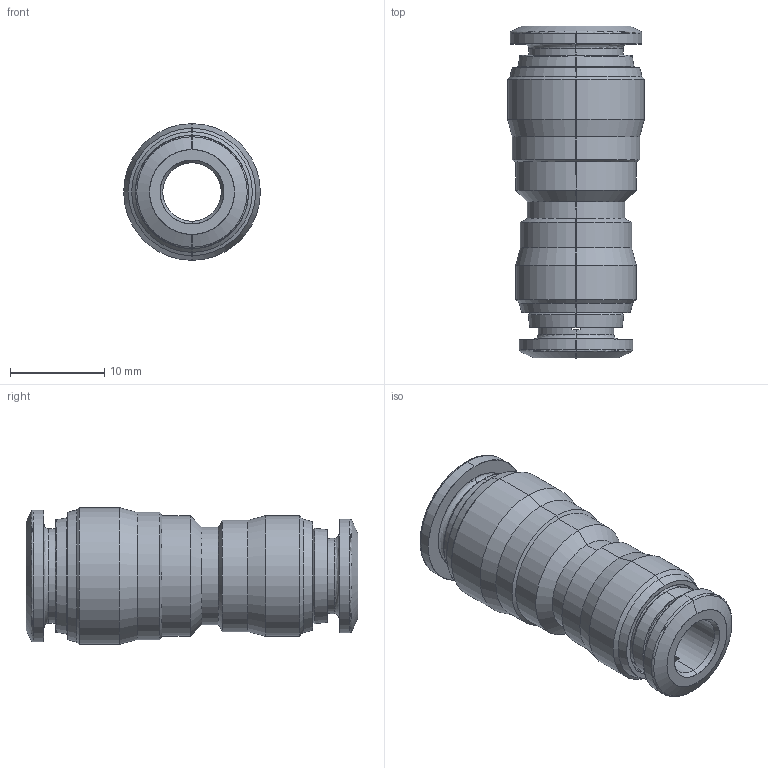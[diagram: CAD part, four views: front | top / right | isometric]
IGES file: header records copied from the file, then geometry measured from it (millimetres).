
Start section: SolidWorks IGES file using analytic representation for surfaces
Global section: file name: C:\Users\cad06\Desktop\Nuova cartella\40040V0004A.IGS; native system: SolidWorks 2016; preprocessor: SolidWorks 2016; author: cad06; date: 160516.151311; units: millimetre
Bounding box: 14.5 x 35.2 x 14.5 mm (x, y, z)
Surface area: 2544 mm2 (no closed solid volume)
Topology: 0 solids, 0 shells, 94 faces, 1032 edges, 1032 vertices
Faces by surface type: revolution 66, bspline 28
